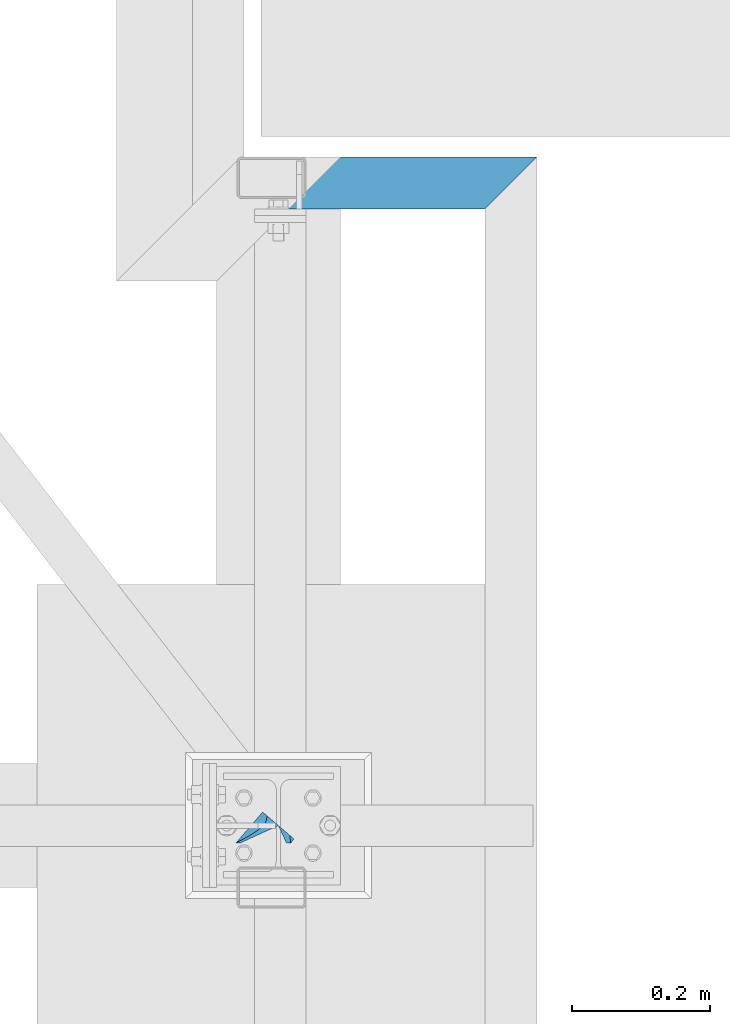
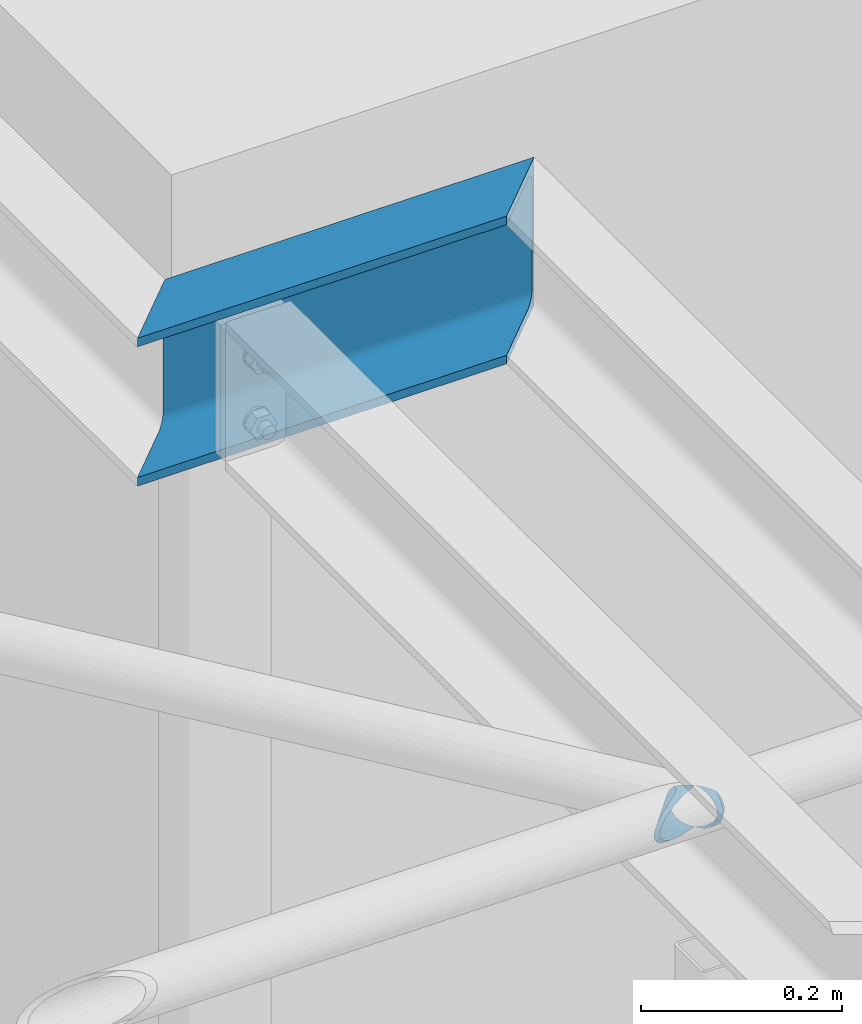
# One storey, part 6 of 23: 2 beams, 2 elements without a shape of their own.
"""IFC2X3 building model written with IfcOpenShell, lengths in millimetres."""

import ifcopenshell
import ifcopenshell.guid

model = None  # the IFC model being written
_history = None  # IfcOwnerHistory: only IFC2X3 demands one
_inside = {}  # id of a spatial element -> (the spatial element, [elements in it])
_under = {}  # id of a project, library or spatial element -> (it, [spatial elements below it])
_declared = {}  # id of a project -> (the project, [libraries it declares])
_typed = {}  # id of a type object -> (the type object, [elements of that type])
_made_of = {}  # id of a material, layer set ... -> (it, [elements and type objects made of it])


def new_model(schema):
    """Start an empty IFC model of exactly this schema.

    Asked for "IFC4X3", IfcOpenShell would pick the latest addendum, in which some entities
    have other attributes; the version numbers below select the first issue.
    IFC2X3 requires an IfcOwnerHistory on every rooted entity: one is made here for all.
    """
    global model, _history
    if schema == "IFC4X3":
        model = ifcopenshell.file(schema_version=(4, 3, 0, 0))
    else:
        model = ifcopenshell.file(schema=schema)
    _inside.clear()
    _under.clear()
    _declared.clear()
    _typed.clear()
    _made_of.clear()
    _history = None
    if model.schema == "IFC2X3":
        org = make("IfcOrganization", Name="unknown")
        user = make(
            "IfcPersonAndOrganization",
            ThePerson=make("IfcPerson", FamilyName="unknown"),
            TheOrganization=org,
        )
        app = make(
            "IfcApplication",
            ApplicationDeveloper=org,
            Version="unknown",
            ApplicationFullName="unknown",
            ApplicationIdentifier="unknown",
        )
        _history = make(
            "IfcOwnerHistory",
            OwningUser=user,
            OwningApplication=app,
            ChangeAction="ADDED",
            CreationDate=0,
        )
    return model


def make(cls, **values):
    """One entity of the class cls with the attributes given. An attribute that is None is left unset."""
    return model.create_entity(
        cls, **{name: value for name, value in values.items() if value is not None}
    )


def rooted(cls, **values):
    """An entity with a GlobalId (a new one), such as an element, a storey or a relation."""
    return make(cls, GlobalId=ifcopenshell.guid.new(), OwnerHistory=_history, **values)


def si_unit(unit_type, name, prefix=None):
    """IfcSIUnit, for example si_unit("LENGTHUNIT", "METRE", prefix="MILLI")."""
    return make("IfcSIUnit", UnitType=unit_type, Prefix=prefix, Name=name)


def assignment(units):
    """IfcUnitAssignment: the units of a project."""
    return None if units is None else make("IfcUnitAssignment", Units=units)


def point(xyz):
    """IfcCartesianPoint."""
    return None if xyz is None else make("IfcCartesianPoint", Coordinates=xyz)


def direction(xyz):
    """IfcDirection."""
    return None if xyz is None else make("IfcDirection", DirectionRatios=xyz)


def frame(location, z_axis=None, x_axis=None):
    """IfcAxis2Placement3D, a coordinate frame: its origin and axes. An axis left out is left unset."""
    return make(
        "IfcAxis2Placement3D",
        Location=point(location),
        Axis=direction(z_axis),
        RefDirection=direction(x_axis),
    )


def frame_2d(location, x_axis=None):
    """IfcAxis2Placement2D, a coordinate frame in the plane: its origin and x axis."""
    return make(
        "IfcAxis2Placement2D", Location=point(location), RefDirection=direction(x_axis)
    )


def origin_with_axes():
    """The frame at (0, 0, 0) with the z axis (0, 0, 1) and the x axis (1, 0, 0) written out."""
    return frame((0.0, 0.0, 0.0), z_axis=(0.0, 0.0, 1.0), x_axis=(1.0, 0.0, 0.0))


def origin_2d_with_axis():
    """The frame at (0, 0) in the plane with the x axis (1, 0) written out."""
    return frame_2d((0.0, 0.0), x_axis=(1.0, 0.0))


def place(relative_to, where):
    """IfcLocalPlacement: puts the frame where relative to a parent placement (None: the world)."""
    return make(
        "IfcLocalPlacement", PlacementRelTo=relative_to, RelativePlacement=where
    )


def context(
    kind, dimensions, precision=None, world=None, true_north=None, identifier=None
):
    """IfcGeometricRepresentationContext, for example the 3D "Model" context."""
    return make(
        "IfcGeometricRepresentationContext",
        ContextIdentifier=identifier,
        ContextType=kind,
        CoordinateSpaceDimension=dimensions,
        Precision=precision,
        WorldCoordinateSystem=world,
        TrueNorth=true_north,
    )


def subcontext(parent, identifier, kind, view, scale=None):
    """IfcGeometricRepresentationSubContext, for example "Body" below "Model"."""
    return make(
        "IfcGeometricRepresentationSubContext",
        ContextIdentifier=identifier,
        ContextType=kind,
        ParentContext=parent,
        TargetScale=scale,
        TargetView=view,
    )


def project(units=None, contexts=None):
    """IfcProject with its units and contexts."""
    return rooted(
        "IfcProject",
        Name="project",
        RepresentationContexts=contexts,
        UnitsInContext=assignment(units),
    )


def spatial(cls, under=None, at=None, **own):
    """A site, building, storey or space (cls), placed at a placement, below another one or the project."""
    s = rooted(cls, ObjectPlacement=at, **own)
    if under is not None:
        _under.setdefault(under.id(), (under, []))[1].append(s)
    return s


def profile(cls, at=None, kind="AREA", **sizes):
    """A parametric profile (cls). Its sizes go by their IFC names, for example OverallWidth=200.0."""
    return make(cls, ProfileType=kind, Position=at, **sizes)


def hollow_circle(**sizes):
    """IfcCircleHollowProfileDef."""
    return profile("IfcCircleHollowProfileDef", **sizes)


def u_section(**sizes):
    """IfcUShapeProfileDef."""
    return profile("IfcUShapeProfileDef", **sizes)


def extrude(swept, where, along, depth):
    """IfcExtrudedAreaSolid: the profile swept, set in the frame where, extruded along a direction by depth."""
    return make(
        "IfcExtrudedAreaSolid",
        SweptArea=swept,
        Position=where,
        ExtrudedDirection=direction(along),
        Depth=depth,
    )


def boolean(op, a, b):
    """IfcBooleanResult of two solids."""
    return make("IfcBooleanResult", Operator=op, FirstOperand=a, SecondOperand=b)


def clip(a, b, op="DIFFERENCE"):
    """IfcBooleanClippingResult: the solid a cut by the half space b."""
    return make(
        "IfcBooleanClippingResult", Operator=op, FirstOperand=a, SecondOperand=b
    )


def halfspace(plane, agree):
    """IfcHalfSpaceSolid: all space on one side of the plane z = 0 of the frame plane."""
    return make(
        "IfcHalfSpaceSolid",
        BaseSurface=make("IfcPlane", Position=plane),
        AgreementFlag=agree,
    )


def shape(context_of_items, identifier, shape_type, items):
    """IfcShapeRepresentation: the items that make up one representation, for example the "Body"."""
    return make(
        "IfcShapeRepresentation",
        ContextOfItems=context_of_items,
        RepresentationIdentifier=identifier,
        RepresentationType=shape_type,
        Items=items,
    )


def material(Name=None, Category=None):
    """IfcMaterial."""
    return make("IfcMaterial", Name=Name, Category=Category)


def made_of(thing, what):
    """Note that an element or type object is made of a material, layer set ...; save() writes the relation."""
    if what is not None:
        _made_of.setdefault(what.id(), (what, []))[1].append(thing)
    return thing


def type_object(cls, material=None, **own):
    """A type object (cls), such as IfcWallType, which elements share."""
    return made_of(rooted(cls, **own), material)


def element(
    cls,
    number,
    at=None,
    inside=None,
    cuts=None,
    type_object=None,
    material=None,
    context=None,
    identifier="Body",
    shape_type=None,
    held_by="IfcProductDefinitionShape",
    body=None,
    shapes=None,
    **own,
):
    """One element of the class cls, such as IfcWall. Its Tag is "e" and its number.

    at: its placement. inside: the storey or other place that contains it. cuts: it is an
    opening in that element (IfcRelVoidsElement). A single representation is given by context,
    identifier, shape_type and body (its items); several are given by shapes. held_by: the class
    of the entity that holds the representations. save() writes the other relations.
    """
    e = rooted(cls, Tag="e%d" % number, ObjectPlacement=at, **own)
    if body is not None:
        shapes = [shape(context, identifier, shape_type, body)]
    if shapes is not None:
        e.Representation = make(held_by, Representations=shapes)
    if inside is not None:
        _inside.setdefault(inside.id(), (inside, []))[1].append(e)
    if cuts is not None:
        rooted(
            "IfcRelVoidsElement", RelatingBuildingElement=cuts, RelatedOpeningElement=e
        )
    if type_object is not None:
        _typed.setdefault(type_object.id(), (type_object, []))[1].append(e)
    return made_of(e, material)


def aggregate(whole, parts):
    """IfcRelAggregates: a whole, such as a stair, and the parts it consists of."""
    return rooted("IfcRelAggregates", RelatingObject=whole, RelatedObjects=parts)


def save(model, path):
    """Write the relations noted so far, then the file.

    IfcRelAggregates (storeys below a building ...), IfcRelContainedInSpatialStructure (elements
    in a storey), IfcRelDefinesByType, IfcRelAssociatesMaterial and IfcRelDeclares: one each for
    every whole, place, type object, material and project.
    """
    for whole, parts in _under.values():
        aggregate(whole, parts)
    for where, things in _inside.values():
        rooted(
            "IfcRelContainedInSpatialStructure",
            RelatedElements=things,
            RelatingStructure=where,
        )
    for kind, things in _typed.values():
        rooted("IfcRelDefinesByType", RelatedObjects=things, RelatingType=kind)
    for what, things in _made_of.values():
        rooted("IfcRelAssociatesMaterial", RelatedObjects=things, RelatingMaterial=what)
    for by, libraries in _declared.values():
        rooted("IfcRelDeclares", RelatingContext=by, RelatedDefinitions=libraries)
    model.write(path)


model = new_model("IFC2X3")

# Units and contexts
model_context = context("Model", 3, precision=1e-05, world=origin_with_axes())
body_context = subcontext(model_context, "Body", "Model", "MODEL_VIEW")
ifc_project = project(units=[si_unit("LENGTHUNIT", "METRE", prefix="MILLI"), si_unit("AREAUNIT", "SQUARE_METRE"), si_unit("VOLUMEUNIT", "CUBIC_METRE"), si_unit("MASSUNIT", "GRAM", prefix="KILO"), si_unit("TIMEUNIT", "SECOND"), si_unit("PLANEANGLEUNIT", "RADIAN"), si_unit("SOLIDANGLEUNIT", "STERADIAN"), si_unit("THERMODYNAMICTEMPERATUREUNIT", "DEGREE_CELSIUS"), si_unit("LUMINOUSINTENSITYUNIT", "LUMEN")], contexts=[model_context])

# Site, building, storey
site_placement = place(None, origin_with_axes())
site = spatial("IfcSite", under=ifc_project, at=site_placement, Name="Undefined", CompositionType="ELEMENT")
building_placement = place(site_placement, origin_with_axes())
building = spatial("IfcBuilding", under=site, at=building_placement, Name="Undefined", CompositionType="ELEMENT")
storey_placement = place(building_placement, origin_with_axes())
storey = spatial("IfcBuildingStorey", under=building, at=storey_placement, Name="Undefined", CompositionType="ELEMENT", Elevation=0.0)

# Assembly, beam
assembly_1_placement = place(storey_placement, origin_with_axes())
assembly_1 = element("IfcElementAssembly", 1, at=assembly_1_placement, inside=storey, Name="Steel Assembly", AssemblyPlace="NOTDEFINED", PredefinedType="RIGID_FRAME")
ifc_material = material(Name="STEEL/S235JR")
beam_type_1 = type_object("IfcBeamType", Name="CHS60.3*5", PredefinedType="NOTDEFINED")
beam_1_placement = place(assembly_1_placement, frame((15050.0, 100.0, 3230.0), z_axis=(0.0, 0.0, -1.0), x_axis=(0.652939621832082, 0.757409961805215, 0.0)))
beam_1 = element("IfcBeam", 2, at=beam_1_placement, type_object=beam_type_1, material=ifc_material, Name="NOSNÍK", ObjectType="CHS60.3*5", context=body_context, shape_type="CSG", body=[
    boolean("DIFFERENCE", boolean("DIFFERENCE", boolean("DIFFERENCE", extrude(hollow_circle(Radius=30.15, WallThickness=5.0, at=origin_2d_with_axis()), frame((1531.53517752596, -1.81898940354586e-12, 0.0), z_axis=(-1.0, 0.0, 0.0), x_axis=(0.0, -1.0, 0.0)), (0.0, 0.0, 1.0), 1531.5), extrude(hollow_circle(Radius=30.15, WallThickness=5.0, at=origin_2d_with_axis()), frame((1554.06159447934, 26.1306441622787, 0.0), z_axis=(-0.652939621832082, -0.757409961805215, 0.0), x_axis=(0.757409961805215, -0.652939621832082, 0.0)), (0.0, 0.0, 1.0), 1034.5)), extrude(hollow_circle(Radius=30.15, WallThickness=5.0, at=origin_2d_with_axis()), frame((675.46603878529, 783.540605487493, 0.0), z_axis=(-0.652939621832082, -0.757409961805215, 0.0), x_axis=(0.757409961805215, -0.652939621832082, 0.0)), (0.0, 0.0, 1.0), 1032.1)), halfspace(frame((-31.3748924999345, 30.1499999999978, -30.1500000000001), z_axis=(-0.652939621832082, -0.757409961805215, 0.0), x_axis=(0.0, 0.0, 1.0)), False)),
])
aggregate(assembly_1, [beam_1])

assembly_2_placement = place(storey_placement, origin_with_axes())
assembly_2 = element("IfcElementAssembly", 3, at=assembly_2_placement, inside=storey, Name="Steel Assembly", AssemblyPlace="NOTDEFINED", PredefinedType="RIGID_FRAME")
beam_type_2 = type_object("IfcBeamType", Name="UPE180", PredefinedType="NOTDEFINED")
beam_2_placement = place(assembly_2_placement, frame((15925.0, 2192.5, 3210.0), z_axis=(0.0, 0.0, 1.0), x_axis=(1.0, 0.0, 0.0)))
beam_2 = element("IfcBeam", 4, at=beam_2_placement, type_object=beam_type_2, material=ifc_material, Name="NOSNÍK", ObjectType="UPE180", context=body_context, shape_type="Clipping", body=[
    clip(clip(extrude(u_section(Depth=180.0, FlangeWidth=75.0, WebThickness=5.5, FlangeThickness=10.5, FilletRadius=12.0, at=origin_2d_with_axis()), frame((500.0, 0.0, 0.0), z_axis=(-1.0, 0.0, 0.0), x_axis=(0.0, -1.0, 0.0)), (0.0, 0.0, 1.0), 500.0), halfspace(frame((425.0, -37.5, -90.0), z_axis=(0.707106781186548, -0.707106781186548, 0.0), x_axis=(0.0, 0.0, 1.0)), False)), halfspace(frame((75.0, 37.5, -90.0), z_axis=(-0.707106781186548, 0.707106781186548, 0.0), x_axis=(0.0, 0.0, 1.0)), False)),
])
aggregate(assembly_2, [beam_2])

save(model, "model.ifc")
